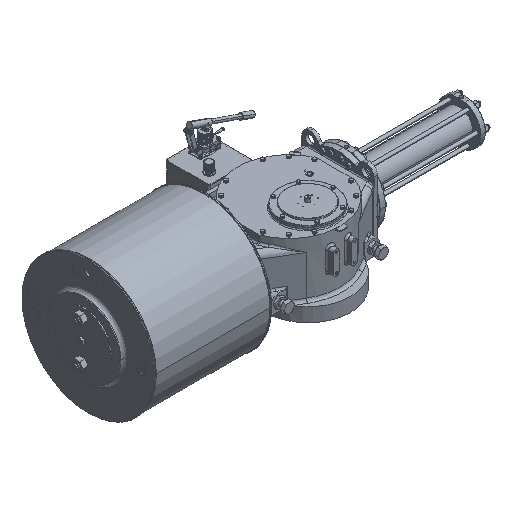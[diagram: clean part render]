
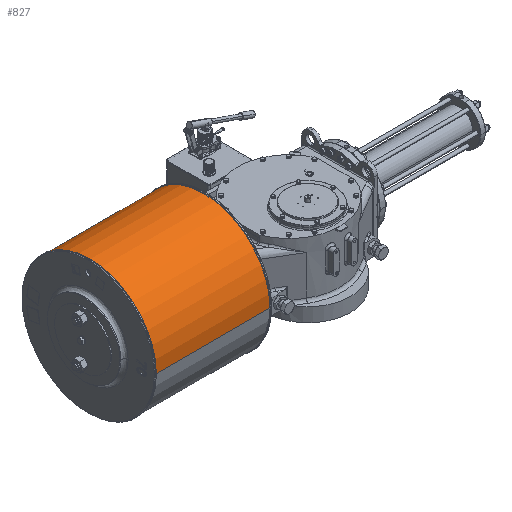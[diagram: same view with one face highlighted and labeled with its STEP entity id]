
A CAD part, isometric view. The second image highlights one B-rep face of the part: STEP entity #827.
In plain terms, the highlighted cylindrical face has radius 366 mm (diameter 732 mm), a partial arc.
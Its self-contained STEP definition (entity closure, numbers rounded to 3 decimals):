
#827 = ADVANCED_FACE ( 'NONE', ( #77215 ), #110992, .T. ) ;
#3604 = CIRCLE ( 'NONE', #102495, 366. ) ;
#9925 = DIRECTION ( 'NONE',  ( 1., 0., 0. ) ) ;
#12322 = CARTESIAN_POINT ( 'NONE',  ( -1035., 171., 138. ) ) ;
#22123 = CARTESIAN_POINT ( 'NONE',  ( -405., 171., 138. ) ) ;
#23579 = ORIENTED_EDGE ( 'NONE', *, *, #66499, .T. ) ;
#27926 = LINE ( 'NONE', #86948, #78458 ) ;
#28659 = DIRECTION ( 'NONE',  ( 0., 1., 0. ) ) ;
#29949 = EDGE_CURVE ( 'NONE', #40708, #76231, #3604, .T. ) ;
#30828 = DIRECTION ( 'NONE',  ( 1., 0., 0. ) ) ;
#33968 = DIRECTION ( 'NONE',  ( 1., 0., 0. ) ) ;
#40708 = VERTEX_POINT ( 'NONE', #91562 ) ;
#41687 = AXIS2_PLACEMENT_3D ( 'NONE', #59819, #33968, #75555 ) ;
#44386 = EDGE_LOOP ( 'NONE', ( #51172, #23579, #61278, #83900 ) ) ;
#51172 = ORIENTED_EDGE ( 'NONE', *, *, #87525, .T. ) ;
#53125 = CARTESIAN_POINT ( 'NONE',  ( -1035., 537., 138. ) ) ;
#59819 = CARTESIAN_POINT ( 'NONE',  ( -1035., 171., 138. ) ) ;
#61278 = ORIENTED_EDGE ( 'NONE', *, *, #29949, .T. ) ;
#61294 = DIRECTION ( 'NONE',  ( 1., 0., 0. ) ) ;
#65666 = CARTESIAN_POINT ( 'NONE',  ( -1035., 537., 138. ) ) ;
#66499 = EDGE_CURVE ( 'NONE', #103752, #40708, #27926, .T. ) ;
#70164 = EDGE_CURVE ( 'NONE', #109855, #76231, #108403, .T. ) ;
#75398 = CIRCLE ( 'NONE', #87979, 366. ) ;
#75555 = DIRECTION ( 'NONE',  ( 0., 1., 0. ) ) ;
#76231 = VERTEX_POINT ( 'NONE', #104204 ) ;
#77215 = FACE_OUTER_BOUND ( 'NONE', #44386, .T. ) ;
#78458 = VECTOR ( 'NONE', #9925, 1000. ) ;
#83388 = DIRECTION ( 'NONE',  ( 0., 1., 0. ) ) ;
#83831 = VECTOR ( 'NONE', #30828, 1000. ) ;
#83900 = ORIENTED_EDGE ( 'NONE', *, *, #70164, .F. ) ;
#86948 = CARTESIAN_POINT ( 'NONE',  ( -1035., -195., 138. ) ) ;
#87525 = EDGE_CURVE ( 'NONE', #109855, #103752, #75398, .T. ) ;
#87979 = AXIS2_PLACEMENT_3D ( 'NONE', #12322, #61294, #28659 ) ;
#91562 = CARTESIAN_POINT ( 'NONE',  ( -405., -195., 138. ) ) ;
#100682 = CARTESIAN_POINT ( 'NONE',  ( -1035., -195., 138. ) ) ;
#102495 = AXIS2_PLACEMENT_3D ( 'NONE', #22123, #108713, #83388 ) ;
#103752 = VERTEX_POINT ( 'NONE', #100682 ) ;
#104204 = CARTESIAN_POINT ( 'NONE',  ( -405., 537., 138. ) ) ;
#108403 = LINE ( 'NONE', #65666, #83831 ) ;
#108713 = DIRECTION ( 'NONE',  ( -1., 0., 0. ) ) ;
#109855 = VERTEX_POINT ( 'NONE', #53125 ) ;
#110992 = CYLINDRICAL_SURFACE ( 'NONE', #41687, 366. ) ;
